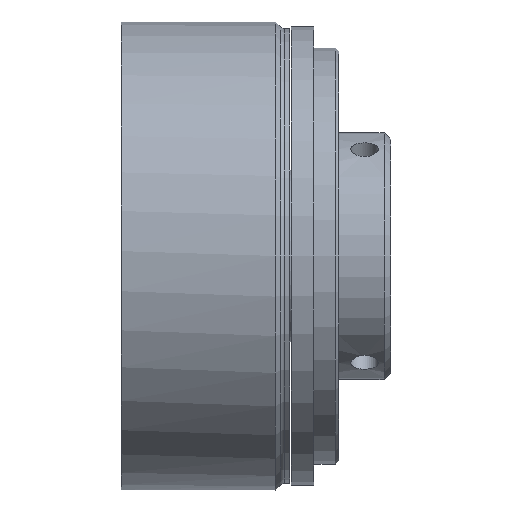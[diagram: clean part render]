
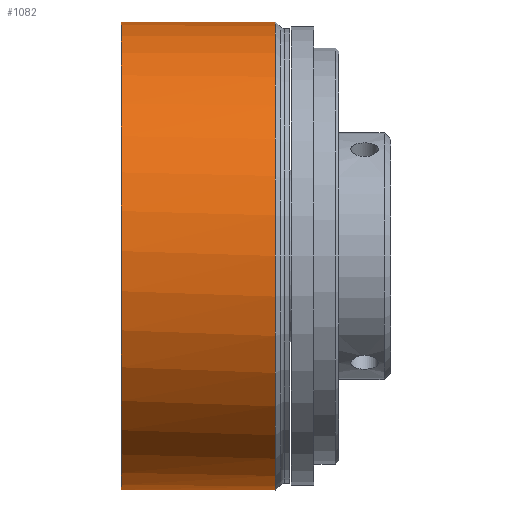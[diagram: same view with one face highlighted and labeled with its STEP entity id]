
A CAD part, front view. The second image highlights one B-rep face of the part: STEP entity #1082.
In plain terms, the highlighted cylindrical face has radius 36 mm (diameter 72 mm), a full revolution.
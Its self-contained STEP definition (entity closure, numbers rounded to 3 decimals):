
#3 = EDGE_CURVE ( 'NONE', #182, #32, #135, .T. ) ;
#32 = VERTEX_POINT ( 'NONE', #801 ) ;
#73 = ORIENTED_EDGE ( 'NONE', *, *, #1443, .T. ) ;
#100 = CIRCLE ( 'NONE', #614, 36. ) ;
#103 = ORIENTED_EDGE ( 'NONE', *, *, #449, .T. ) ;
#115 = EDGE_LOOP ( 'NONE', ( #103 ) ) ;
#131 = DIRECTION ( 'NONE',  ( 0., 0., 1. ) ) ;
#135 = LINE ( 'NONE', #891, #987 ) ;
#167 = ORIENTED_EDGE ( 'NONE', *, *, #1477, .F. ) ;
#182 = VERTEX_POINT ( 'NONE', #698 ) ;
#288 = CIRCLE ( 'NONE', #367, 36. ) ;
#367 = AXIS2_PLACEMENT_3D ( 'NONE', #593, #1242, #608 ) ;
#449 = EDGE_CURVE ( 'NONE', #455, #455, #1081, .T. ) ;
#455 = VERTEX_POINT ( 'NONE', #895 ) ;
#473 = LINE ( 'NONE', #1324, #1432 ) ;
#501 = FACE_OUTER_BOUND ( 'NONE', #927, .T. ) ;
#593 = CARTESIAN_POINT ( 'NONE',  ( 11.5, 0., 0. ) ) ;
#608 = DIRECTION ( 'NONE',  ( 0., 0., 1. ) ) ;
#614 = AXIS2_PLACEMENT_3D ( 'NONE', #1123, #1602, #727 ) ;
#686 = DIRECTION ( 'NONE',  ( 0., 0., 1. ) ) ;
#698 = CARTESIAN_POINT ( 'NONE',  ( 11.5, 35.93, -2.25 ) ) ;
#715 = VERTEX_POINT ( 'NONE', #738 ) ;
#727 = DIRECTION ( 'NONE',  ( 0., 0., 1. ) ) ;
#728 = FACE_OUTER_BOUND ( 'NONE', #115, .T. ) ;
#734 = AXIS2_PLACEMENT_3D ( 'NONE', #1195, #1317, #686 ) ;
#738 = CARTESIAN_POINT ( 'NONE',  ( 11.5, 35.93, 2.25 ) ) ;
#794 = ORIENTED_EDGE ( 'NONE', *, *, #1417, .F. ) ;
#801 = CARTESIAN_POINT ( 'NONE',  ( 0., 35.93, -2.25 ) ) ;
#891 = CARTESIAN_POINT ( 'NONE',  ( 11.5, 35.93, -2.25 ) ) ;
#895 = CARTESIAN_POINT ( 'NONE',  ( 23.7, 0., 36. ) ) ;
#909 = VERTEX_POINT ( 'NONE', #1281 ) ;
#927 = EDGE_LOOP ( 'NONE', ( #1517, #167, #73, #794 ) ) ;
#987 = VECTOR ( 'NONE', #1522, 1000. ) ;
#1029 = DIRECTION ( 'NONE',  ( -1., 0., 0. ) ) ;
#1081 = CIRCLE ( 'NONE', #1647, 36. ) ;
#1082 = ADVANCED_FACE ( 'NONE', ( #501, #728 ), #1422, .T. ) ;
#1123 = CARTESIAN_POINT ( 'NONE',  ( 0., 0., 0. ) ) ;
#1159 = CARTESIAN_POINT ( 'NONE',  ( 23.7, 0., 0. ) ) ;
#1195 = CARTESIAN_POINT ( 'NONE',  ( 0., 0., 0. ) ) ;
#1242 = DIRECTION ( 'NONE',  ( -1., 0., 0. ) ) ;
#1281 = CARTESIAN_POINT ( 'NONE',  ( 0., 35.93, 2.25 ) ) ;
#1317 = DIRECTION ( 'NONE',  ( -1., 0., 0. ) ) ;
#1324 = CARTESIAN_POINT ( 'NONE',  ( 11.5, 35.93, 2.25 ) ) ;
#1417 = EDGE_CURVE ( 'NONE', #32, #909, #100, .T. ) ;
#1422 = CYLINDRICAL_SURFACE ( 'NONE', #734, 36. ) ;
#1432 = VECTOR ( 'NONE', #1607, 1000. ) ;
#1443 = EDGE_CURVE ( 'NONE', #715, #909, #473, .T. ) ;
#1477 = EDGE_CURVE ( 'NONE', #715, #182, #288, .T. ) ;
#1517 = ORIENTED_EDGE ( 'NONE', *, *, #3, .F. ) ;
#1522 = DIRECTION ( 'NONE',  ( -1., 0., 0. ) ) ;
#1602 = DIRECTION ( 'NONE',  ( -1., 0., 0. ) ) ;
#1607 = DIRECTION ( 'NONE',  ( -1., 0., 0. ) ) ;
#1647 = AXIS2_PLACEMENT_3D ( 'NONE', #1159, #1029, #131 ) ;
